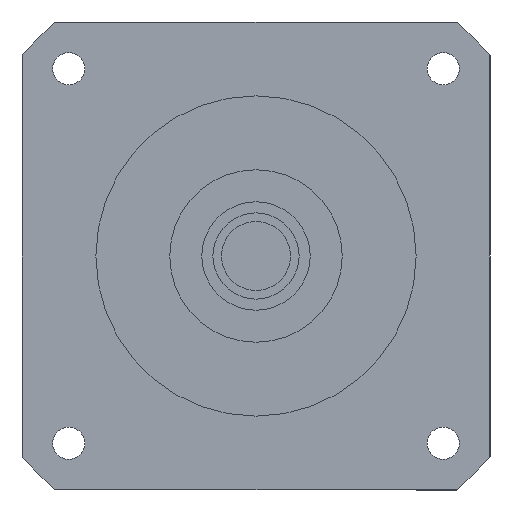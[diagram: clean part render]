
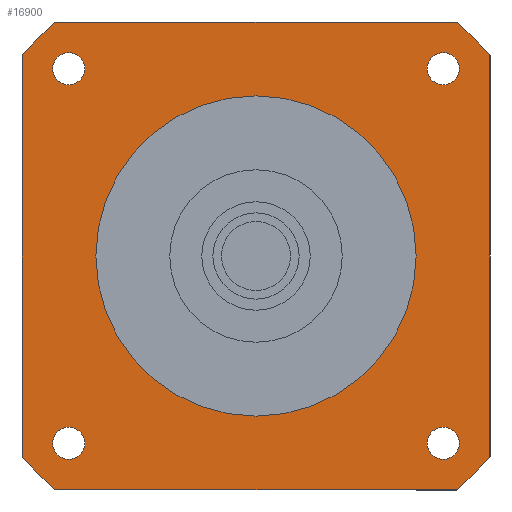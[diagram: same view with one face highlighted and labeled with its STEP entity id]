
A CAD part, left-side view. The second image highlights one B-rep face of the part: STEP entity #16900.
In plain terms, the highlighted planar face has unit normal (-1, 0, 0) as drawn and (0, 0, -1) by its records, which use the part's own axes.
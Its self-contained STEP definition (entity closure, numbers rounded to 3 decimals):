
#13420=CARTESIAN_POINT('',(95.,-81.24,-84.7));
#13430=VERTEX_POINT('',#13420);
#13480=CARTESIAN_POINT('',(0.,0.,
-84.7));
#13490=DIRECTION('',(0.,0.,-1.));
#13500=DIRECTION('',(1.,0.,0.));
#13510=AXIS2_PLACEMENT_3D('',#13480,#13490,#13500);
#13520=CIRCLE('',#13510,125.);
#13530=CARTESIAN_POINT('',(81.24,-95.,-84.7));
#13540=VERTEX_POINT('',#13530);
#13550=EDGE_CURVE('',#13430,#13540,#13520,.T.);
#15330=CARTESIAN_POINT('',(69.514,-76.014,-84.7));
#15340=VERTEX_POINT('',#15330);
#15370=CARTESIAN_POINT('',(76.014,-76.014,-84.7));
#15380=DIRECTION('',(0.,0.,-1.));
#15390=DIRECTION('',(1.,0.,0.));
#15400=AXIS2_PLACEMENT_3D('',#15370,#15380,#15390);
#15410=CIRCLE('',#15400,6.5);
#15420=CARTESIAN_POINT('',(82.514,-76.014,-84.7));
#15430=VERTEX_POINT('',#15420);
#15440=EDGE_CURVE('',#15430,#15340,#15410,.T.);
#15560=CARTESIAN_POINT('',(95.,95.,-84.7));
#15570=DIRECTION('',(0.,0.,-1.));
#15580=DIRECTION('',(1.,0.,0.));
#15590=AXIS2_PLACEMENT_3D('',#15560,#15570,#15580);
#15600=PLANE('',#15590);
#15610=CARTESIAN_POINT('',(-76.014,76.014,-84.7));
#15620=DIRECTION('',(0.,0.,-1.));
#15630=DIRECTION('',(-1.,0.,0.));
#15640=AXIS2_PLACEMENT_3D('',#15610,#15620,#15630);
#15650=CIRCLE('',#15640,6.5);
#15660=CARTESIAN_POINT('',(-82.514,76.014,-84.7));
#15670=VERTEX_POINT('',#15660);
#15680=CARTESIAN_POINT('',(-69.514,76.014,-84.7));
#15690=VERTEX_POINT('',#15680);
#15700=EDGE_CURVE('',#15670,#15690,#15650,.T.);
#15710=ORIENTED_EDGE('',*,*,#15700,.F.);
#15720=EDGE_CURVE('',#15690,#15670,#15650,.T.);
#15730=ORIENTED_EDGE('',*,*,#15720,.F.);
#15740=EDGE_LOOP('',(#15730,#15710));
#15750=FACE_BOUND('',#15740,.T.);
#15760=CARTESIAN_POINT('',(76.014,76.014,-84.7));
#15770=DIRECTION('',(0.,0.,-1.));
#15780=DIRECTION('',(0.,1.,0.));
#15790=AXIS2_PLACEMENT_3D('',#15760,#15770,#15780);
#15800=CIRCLE('',#15790,6.5);
#15810=CARTESIAN_POINT('',(76.014,82.514,-84.7));
#15820=VERTEX_POINT('',#15810);
#15830=CARTESIAN_POINT('',(76.014,69.514,-84.7));
#15840=VERTEX_POINT('',#15830);
#15850=EDGE_CURVE('',#15820,#15840,#15800,.T.);
#15860=ORIENTED_EDGE('',*,*,#15850,.F.);
#15870=EDGE_CURVE('',#15840,#15820,#15800,.T.);
#15880=ORIENTED_EDGE('',*,*,#15870,.F.);
#15890=EDGE_LOOP('',(#15880,#15860));
#15900=FACE_BOUND('',#15890,.T.);
#15910=CARTESIAN_POINT('',(0.,0.,
-84.7));
#15920=DIRECTION('',(0.,0.,1.));
#15930=DIRECTION('',(0.,1.,0.));
#15940=AXIS2_PLACEMENT_3D('',#15910,#15920,#15930);
#15950=CIRCLE('',#15940,65.);
#15960=CARTESIAN_POINT('',(-65.,0.,-84.7));
#15970=VERTEX_POINT('',#15960);
#15980=CARTESIAN_POINT('',(65.,0.,-84.7));
#15990=VERTEX_POINT('',#15980);
#16000=EDGE_CURVE('',#15970,#15990,#15950,.T.);
#16010=ORIENTED_EDGE('',*,*,#16000,.T.);
#16020=CARTESIAN_POINT('',(0.,65.,-84.7));
#16030=VERTEX_POINT('',#16020);
#16040=EDGE_CURVE('',#16030,#15970,#15950,.T.);
#16050=ORIENTED_EDGE('',*,*,#16040,.T.);
#16060=EDGE_CURVE('',#15990,#16030,#15950,.T.);
#16070=ORIENTED_EDGE('',*,*,#16060,.T.);
#16080=EDGE_LOOP('',(#16070,#16050,#16010));
#16090=FACE_BOUND('',#16080,.T.);
#16100=ORIENTED_EDGE('',*,*,#15440,.F.);
#16110=EDGE_CURVE('',#15340,#15430,#15410,.T.);
#16120=ORIENTED_EDGE('',*,*,#16110,.F.);
#16130=EDGE_LOOP('',(#16120,#16100));
#16140=FACE_BOUND('',#16130,.T.);
#16150=CARTESIAN_POINT('',(-76.014,-76.014,-84.7));
#16160=DIRECTION('',(0.,0.,-1.));
#16170=DIRECTION('',(0.,-1.,0.));
#16180=AXIS2_PLACEMENT_3D('',#16150,#16160,#16170);
#16190=CIRCLE('',#16180,6.5);
#16200=CARTESIAN_POINT('',(-76.014,-82.514,-84.7));
#16210=VERTEX_POINT('',#16200);
#16220=CARTESIAN_POINT('',(-76.014,-69.514,-84.7));
#16230=VERTEX_POINT('',#16220);
#16240=EDGE_CURVE('',#16210,#16230,#16190,.T.);
#16250=ORIENTED_EDGE('',*,*,#16240,.F.);
#16260=EDGE_CURVE('',#16230,#16210,#16190,.T.);
#16270=ORIENTED_EDGE('',*,*,#16260,.F.);
#16280=EDGE_LOOP('',(#16270,#16250));
#16290=FACE_BOUND('',#16280,.T.);
#16300=CARTESIAN_POINT('',(-95.,95.,-84.7));
#16310=DIRECTION('',(1.,0.,0.));
#16320=VECTOR('',#16310,1000.);
#16330=LINE('',#16300,#16320);
#16340=CARTESIAN_POINT('',(-81.24,95.,-84.7));
#16350=VERTEX_POINT('',#16340);
#16360=CARTESIAN_POINT('',(81.24,95.,-84.7));
#16370=VERTEX_POINT('',#16360);
#16380=EDGE_CURVE('',#16350,#16370,#16330,.T.);
#16390=ORIENTED_EDGE('',*,*,#16380,.T.);
#16400=CARTESIAN_POINT('',(0.,0.,
-84.7));
#16410=DIRECTION('',(0.,0.,-1.));
#16420=DIRECTION('',(1.,0.,0.));
#16430=AXIS2_PLACEMENT_3D('',#16400,#16410,#16420);
#16440=CIRCLE('',#16430,125.);
#16450=CARTESIAN_POINT('',(-95.,81.24,-84.7));
#16460=VERTEX_POINT('',#16450);
#16470=EDGE_CURVE('',#16460,#16350,#16440,.T.);
#16480=ORIENTED_EDGE('',*,*,#16470,.T.);
#16490=CARTESIAN_POINT('',(-95.,-95.,-84.7));
#16500=DIRECTION('',(0.,1.,0.));
#16510=VECTOR('',#16500,1000.);
#16520=LINE('',#16490,#16510);
#16530=CARTESIAN_POINT('',(-95.,-81.24,-84.7));
#16540=VERTEX_POINT('',#16530);
#16550=EDGE_CURVE('',#16540,#16460,#16520,.T.);
#16560=ORIENTED_EDGE('',*,*,#16550,.T.);
#16570=CARTESIAN_POINT('',(0.,0.,
-84.7));
#16580=DIRECTION('',(0.,0.,-1.));
#16590=DIRECTION('',(1.,0.,0.));
#16600=AXIS2_PLACEMENT_3D('',#16570,#16580,#16590);
#16610=CIRCLE('',#16600,125.);
#16620=CARTESIAN_POINT('',(-81.24,-95.,-84.7));
#16630=VERTEX_POINT('',#16620);
#16640=EDGE_CURVE('',#16630,#16540,#16610,.T.);
#16650=ORIENTED_EDGE('',*,*,#16640,.T.);
#16660=CARTESIAN_POINT('',(95.,-95.,-84.7));
#16670=DIRECTION('',(-1.,0.,0.));
#16680=VECTOR('',#16670,1000.);
#16690=LINE('',#16660,#16680);
#16700=EDGE_CURVE('',#13540,#16630,#16690,.T.);
#16710=ORIENTED_EDGE('',*,*,#16700,.T.);
#16720=ORIENTED_EDGE('',*,*,#13550,.T.);
#16730=CARTESIAN_POINT('',(95.,95.,-84.7));
#16740=DIRECTION('',(0.,-1.,0.));
#16750=VECTOR('',#16740,1000.);
#16760=LINE('',#16730,#16750);
#16770=CARTESIAN_POINT('',(95.,81.24,-84.7));
#16780=VERTEX_POINT('',#16770);
#16790=EDGE_CURVE('',#16780,#13430,#16760,.T.);
#16800=ORIENTED_EDGE('',*,*,#16790,.T.);
#16810=CARTESIAN_POINT('',(0.,0.,
-84.7));
#16820=DIRECTION('',(0.,0.,-1.));
#16830=DIRECTION('',(1.,0.,0.));
#16840=AXIS2_PLACEMENT_3D('',#16810,#16820,#16830);
#16850=CIRCLE('',#16840,125.);
#16860=EDGE_CURVE('',#16370,#16780,#16850,.T.);
#16870=ORIENTED_EDGE('',*,*,#16860,.T.);
#16880=EDGE_LOOP('',(#16870,#16800,#16720,#16710,#16650,#16560,#16480,
#16390));
#16890=FACE_OUTER_BOUND('',#16880,.T.);
#16900=ADVANCED_FACE('',(#15750,#15900,#16090,#16140,#16290,#16890),
#15600,.T.);
